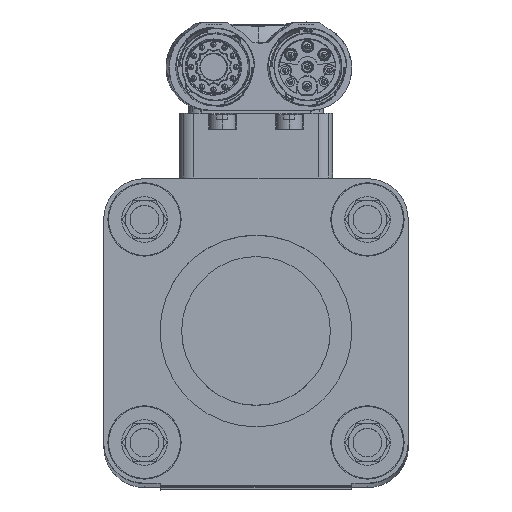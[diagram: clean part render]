
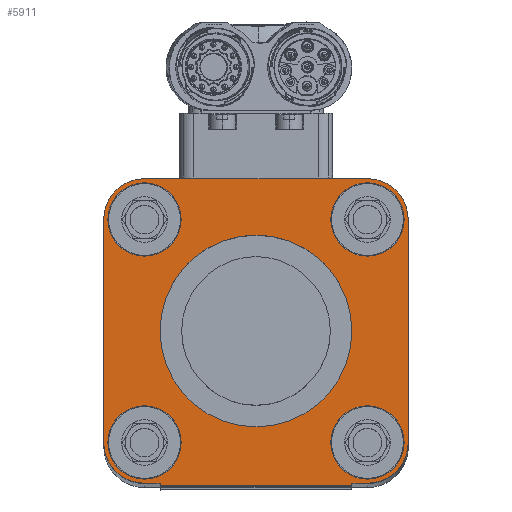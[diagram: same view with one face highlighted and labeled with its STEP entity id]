
A CAD part, left-side view. The second image highlights one B-rep face of the part: STEP entity #5911.
In plain terms, the highlighted planar face has unit normal (-1, 0, 0.002) as drawn and (0, 0, 1) by its records, which use the part's own axes.
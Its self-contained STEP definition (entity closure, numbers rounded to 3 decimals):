
#5911=ADVANCED_FACE('10:20',(#13326,#13327,#13328,#13329,#13330,#13331),#13332,.T.);
#13326=FACE_BOUND('',#21774,.T.);
#13327=FACE_BOUND('',#21775,.T.);
#13328=FACE_BOUND('',#21776,.T.);
#13329=FACE_BOUND('',#21777,.T.);
#13330=FACE_BOUND('',#21778,.T.);
#13331=FACE_OUTER_BOUND('',#21779,.T.);
#13332=PLANE('',#21780);
#21774=EDGE_LOOP('',(#54032,#54033));
#21775=EDGE_LOOP('',(#54034,#54035));
#21776=EDGE_LOOP('',(#54036,#54037));
#21777=EDGE_LOOP('',(#54038,#54039));
#21778=EDGE_LOOP('',(#54040,#54041));
#21779=EDGE_LOOP('',(#54042,#54043,#54044,#54045,#54046,#54047,#54048,#54049,#54050,#54051,#54052,#54053,#54054,#54055,#54056,#54057));
#21780=AXIS2_PLACEMENT_3D('',#54058,#54059,#54060);
#54032=ORIENTED_EDGE('',*,*,#72532,.F.);
#54033=ORIENTED_EDGE('',*,*,#72537,.F.);
#54034=ORIENTED_EDGE('',*,*,#72462,.F.);
#54035=ORIENTED_EDGE('',*,*,#72538,.F.);
#54036=ORIENTED_EDGE('',*,*,#72467,.F.);
#54037=ORIENTED_EDGE('',*,*,#72539,.F.);
#54038=ORIENTED_EDGE('',*,*,#72472,.F.);
#54039=ORIENTED_EDGE('',*,*,#72540,.F.);
#54040=ORIENTED_EDGE('',*,*,#72477,.F.);
#54041=ORIENTED_EDGE('',*,*,#72541,.F.);
#54042=ORIENTED_EDGE('',*,*,#72482,.F.);
#54043=ORIENTED_EDGE('',*,*,#72542,.F.);
#54044=ORIENTED_EDGE('',*,*,#72543,.F.);
#54045=ORIENTED_EDGE('',*,*,#72487,.F.);
#54046=ORIENTED_EDGE('',*,*,#72544,.F.);
#54047=ORIENTED_EDGE('',*,*,#72545,.F.);
#54048=ORIENTED_EDGE('',*,*,#72492,.F.);
#54049=ORIENTED_EDGE('',*,*,#72546,.F.);
#54050=ORIENTED_EDGE('',*,*,#72547,.F.);
#54051=ORIENTED_EDGE('',*,*,#72497,.F.);
#54052=ORIENTED_EDGE('',*,*,#72548,.F.);
#54053=ORIENTED_EDGE('',*,*,#72549,.F.);
#54054=ORIENTED_EDGE('',*,*,#72550,.F.);
#54055=ORIENTED_EDGE('',*,*,#72551,.F.);
#54056=ORIENTED_EDGE('',*,*,#72552,.F.);
#54057=ORIENTED_EDGE('',*,*,#72553,.F.);
#54058=CARTESIAN_POINT('',(0.0,0.0,34.0));
#54059=DIRECTION('',(0.0,0.0,1.0));
#54060=DIRECTION('',(1.0,0.0,0.0));
#72462=EDGE_CURVE('0:1577',#85614,#85610,#85616,.F.);
#72467=EDGE_CURVE('0:1603',#85623,#85619,#85625,.F.);
#72472=EDGE_CURVE('0:1551',#85632,#85628,#85634,.F.);
#72477=EDGE_CURVE('0:1525',#85641,#85637,#85643,.F.);
#72482=EDGE_CURVE('0:1801',#85650,#85646,#85652,.F.);
#72487=EDGE_CURVE('0:1695',#85659,#85655,#85661,.F.);
#72492=EDGE_CURVE('0:1637',#85668,#85664,#85670,.F.);
#72497=EDGE_CURVE('0:1747',#85677,#85673,#85679,.F.);
#72532=EDGE_CURVE('10:253',#85740,#85736,#85742,.T.);
#72537=EDGE_CURVE('',#85736,#85740,#85747,.T.);
#72538=EDGE_CURVE('',#85610,#85614,#85748,.F.);
#72539=EDGE_CURVE('',#85619,#85623,#85749,.F.);
#72540=EDGE_CURVE('',#85628,#85632,#85750,.F.);
#72541=EDGE_CURVE('',#85637,#85641,#85751,.F.);
#72542=EDGE_CURVE('0:863',#85752,#85650,#85753,.F.);
#72543=EDGE_CURVE('',#85655,#85752,#85754,.F.);
#72544=EDGE_CURVE('0:854',#85755,#85659,#85756,.F.);
#72545=EDGE_CURVE('',#85664,#85755,#85757,.F.);
#72546=EDGE_CURVE('0:845',#85758,#85668,#85759,.F.);
#72547=EDGE_CURVE('',#85673,#85758,#85760,.F.);
#72548=EDGE_CURVE('13:44',#85761,#85677,#85762,.F.);
#72549=EDGE_CURVE('13:385',#85763,#85761,#85764,.T.);
#72550=EDGE_CURVE('13:394',#85765,#85763,#85766,.T.);
#72551=EDGE_CURVE('13:400',#85767,#85765,#85768,.T.);
#72552=EDGE_CURVE('13:41',#85769,#85767,#85770,.F.);
#72553=EDGE_CURVE('',#85646,#85769,#85771,.F.);
#85610=VERTEX_POINT('',#108064);
#85614=VERTEX_POINT('',#108069);
#85616=CIRCLE('',#108072,7.65);
#85619=VERTEX_POINT('',#108075);
#85623=VERTEX_POINT('',#108080);
#85625=CIRCLE('',#108083,7.65);
#85628=VERTEX_POINT('',#108086);
#85632=VERTEX_POINT('',#108091);
#85634=CIRCLE('',#108094,7.65);
#85637=VERTEX_POINT('',#108097);
#85641=VERTEX_POINT('',#108102);
#85643=CIRCLE('',#108105,7.65);
#85646=VERTEX_POINT('',#108108);
#85650=VERTEX_POINT('',#108113);
#85652=CIRCLE('',#108116,8.5);
#85655=VERTEX_POINT('',#108119);
#85659=VERTEX_POINT('',#108124);
#85661=CIRCLE('',#108127,8.5);
#85664=VERTEX_POINT('',#108130);
#85668=VERTEX_POINT('',#108135);
#85670=CIRCLE('',#108138,8.5);
#85673=VERTEX_POINT('',#108141);
#85677=VERTEX_POINT('',#108146);
#85679=CIRCLE('',#108149,8.5);
#85736=VERTEX_POINT('',#108218);
#85740=VERTEX_POINT('',#108223);
#85742=CIRCLE('',#108226,20.0);
#85747=CIRCLE('',#108231,20.0);
#85748=CIRCLE('',#108232,7.65);
#85749=CIRCLE('',#108233,7.65);
#85750=CIRCLE('',#108234,7.65);
#85751=CIRCLE('',#108235,7.65);
#85752=VERTEX_POINT('',#108236);
#85753=LINE('',#108237,#108238);
#85754=CIRCLE('',#108239,8.5);
#85755=VERTEX_POINT('',#108240);
#85756=LINE('',#108241,#108242);
#85757=CIRCLE('',#108243,8.5);
#85758=VERTEX_POINT('',#108244);
#85759=LINE('',#108245,#108246);
#85760=CIRCLE('',#108247,8.5);
#85761=VERTEX_POINT('',#108248);
#85762=LINE('',#108249,#108250);
#85763=VERTEX_POINT('',#108251);
#85764=LINE('',#108252,#108253);
#85765=VERTEX_POINT('',#108254);
#85766=LINE('',#108255,#108256);
#85767=VERTEX_POINT('',#108257);
#85768=LINE('',#108258,#108259);
#85769=VERTEX_POINT('',#108260);
#85770=LINE('',#108261,#108262);
#85771=CIRCLE('',#108263,8.5);
#108064=CARTESIAN_POINT('',(46.709,-36.636,34.0));
#108069=CARTESIAN_POINT('',(31.409,-36.636,34.0));
#108072=AXIS2_PLACEMENT_3D('',#149160,#149161,#149162);
#108075=CARTESIAN_POINT('',(0.209,-36.636,34.0));
#108080=CARTESIAN_POINT('',(-15.091,-36.636,34.0));
#108083=AXIS2_PLACEMENT_3D('',#149168,#149169,#149170);
#108086=CARTESIAN_POINT('',(46.709,9.864,34.0));
#108091=CARTESIAN_POINT('',(31.409,9.864,34.0));
#108094=AXIS2_PLACEMENT_3D('',#149176,#149177,#149178);
#108097=CARTESIAN_POINT('',(0.209,9.864,34.0));
#108102=CARTESIAN_POINT('',(-15.091,9.864,34.0));
#108105=AXIS2_PLACEMENT_3D('',#149184,#149185,#149186);
#108108=CARTESIAN_POINT('',(45.069,-42.647,34.0));
#108113=CARTESIAN_POINT('',(47.559,-36.636,34.0));
#108116=AXIS2_PLACEMENT_3D('',#149192,#149193,#149194);
#108119=CARTESIAN_POINT('',(45.069,15.874,34.0));
#108124=CARTESIAN_POINT('',(39.059,18.364,34.0));
#108127=AXIS2_PLACEMENT_3D('',#149200,#149201,#149202);
#108130=CARTESIAN_POINT('',(-13.451,15.874,34.0));
#108135=CARTESIAN_POINT('',(-15.941,9.864,34.0));
#108138=AXIS2_PLACEMENT_3D('',#149208,#149209,#149210);
#108141=CARTESIAN_POINT('',(-13.451,-42.647,34.0));
#108146=CARTESIAN_POINT('',(-7.441,-45.136,34.0));
#108149=AXIS2_PLACEMENT_3D('',#149216,#149217,#149218);
#108218=CARTESIAN_POINT('',(35.809,-13.386,34.0));
#108223=CARTESIAN_POINT('',(-4.191,-13.386,34.0));
#108226=AXIS2_PLACEMENT_3D('',#149272,#149273,#149274);
#108231=AXIS2_PLACEMENT_3D('',#149281,#149282,#149283);
#108232=AXIS2_PLACEMENT_3D('',#149284,#149285,#149286);
#108233=AXIS2_PLACEMENT_3D('',#149287,#149288,#149289);
#108234=AXIS2_PLACEMENT_3D('',#149290,#149291,#149292);
#108235=AXIS2_PLACEMENT_3D('',#149293,#149294,#149295);
#108236=CARTESIAN_POINT('',(47.559,9.864,34.0));
#108237=CARTESIAN_POINT('',(47.559,-6.693,34.0));
#108238=VECTOR('',#149296,1.0);
#108239=AXIS2_PLACEMENT_3D('',#149297,#149298,#149299);
#108240=CARTESIAN_POINT('',(-7.441,18.364,34.0));
#108241=CARTESIAN_POINT('',(7.904,18.364,34.0));
#108242=VECTOR('',#149300,1.0);
#108243=AXIS2_PLACEMENT_3D('',#149301,#149302,#149303);
#108244=CARTESIAN_POINT('',(-15.941,-36.636,34.0));
#108245=CARTESIAN_POINT('',(-15.941,-6.693,34.0));
#108246=VECTOR('',#149304,1.0);
#108247=AXIS2_PLACEMENT_3D('',#149305,#149306,#149307);
#108248=CARTESIAN_POINT('',(-4.191,-45.136,34.0));
#108249=CARTESIAN_POINT('',(7.904,-45.136,34.0));
#108250=VECTOR('',#149308,1.0);
#108251=CARTESIAN_POINT('',(-4.191,-45.636,34.0));
#108252=CARTESIAN_POINT('',(-4.191,-45.636,34.0));
#108253=VECTOR('',#149309,1.0);
#108254=CARTESIAN_POINT('',(35.809,-45.636,34.0));
#108255=CARTESIAN_POINT('',(35.809,-45.636,34.0));
#108256=VECTOR('',#149310,1.0);
#108257=CARTESIAN_POINT('',(35.809,-45.136,34.0));
#108258=CARTESIAN_POINT('',(35.809,-45.136,34.0));
#108259=VECTOR('',#149311,1.0);
#108260=CARTESIAN_POINT('',(39.059,-45.136,34.0));
#108261=CARTESIAN_POINT('',(7.904,-45.136,34.0));
#108262=VECTOR('',#149312,1.0);
#108263=AXIS2_PLACEMENT_3D('',#149313,#149314,#149315);
#149160=CARTESIAN_POINT('',(39.059,-36.636,34.0));
#149161=DIRECTION('',(0.0,0.0,-1.0));
#149162=DIRECTION('',(1.0,0.0,0.0));
#149168=CARTESIAN_POINT('',(-7.441,-36.636,34.0));
#149169=DIRECTION('',(0.0,0.0,-1.0));
#149170=DIRECTION('',(1.0,0.0,0.0));
#149176=CARTESIAN_POINT('',(39.059,9.864,34.0));
#149177=DIRECTION('',(0.0,0.0,-1.0));
#149178=DIRECTION('',(1.0,0.0,0.0));
#149184=CARTESIAN_POINT('',(-7.441,9.864,34.0));
#149185=DIRECTION('',(0.0,0.0,-1.0));
#149186=DIRECTION('',(1.0,0.0,0.0));
#149192=CARTESIAN_POINT('',(39.059,-36.636,34.0));
#149193=DIRECTION('',(0.0,0.0,1.0));
#149194=DIRECTION('',(0.707,-0.707,0.0));
#149200=CARTESIAN_POINT('',(39.059,9.864,34.0));
#149201=DIRECTION('',(0.0,-0.0,1.0));
#149202=DIRECTION('',(0.707,0.707,0.0));
#149208=CARTESIAN_POINT('',(-7.441,9.864,34.0));
#149209=DIRECTION('',(0.0,0.0,1.0));
#149210=DIRECTION('',(-0.707,0.707,0.0));
#149216=CARTESIAN_POINT('',(-7.441,-36.636,34.0));
#149217=DIRECTION('',(0.0,0.0,1.0));
#149218=DIRECTION('',(-0.707,-0.707,0.0));
#149272=CARTESIAN_POINT('',(15.809,-13.386,34.0));
#149273=DIRECTION('',(0.0,0.0,1.0));
#149274=DIRECTION('',(1.0,0.0,-0.0));
#149281=CARTESIAN_POINT('',(15.809,-13.386,34.0));
#149282=DIRECTION('',(0.0,0.0,1.0));
#149283=DIRECTION('',(1.0,0.0,-0.0));
#149284=CARTESIAN_POINT('',(39.059,-36.636,34.0));
#149285=DIRECTION('',(0.0,0.0,-1.0));
#149286=DIRECTION('',(1.0,0.0,0.0));
#149287=CARTESIAN_POINT('',(-7.441,-36.636,34.0));
#149288=DIRECTION('',(0.0,0.0,-1.0));
#149289=DIRECTION('',(1.0,0.0,0.0));
#149290=CARTESIAN_POINT('',(39.059,9.864,34.0));
#149291=DIRECTION('',(0.0,0.0,-1.0));
#149292=DIRECTION('',(1.0,0.0,0.0));
#149293=CARTESIAN_POINT('',(-7.441,9.864,34.0));
#149294=DIRECTION('',(0.0,0.0,-1.0));
#149295=DIRECTION('',(1.0,0.0,0.0));
#149296=DIRECTION('',(-0.0,1.0,0.0));
#149297=CARTESIAN_POINT('',(39.059,9.864,34.0));
#149298=DIRECTION('',(0.0,-0.0,1.0));
#149299=DIRECTION('',(0.707,0.707,0.0));
#149300=DIRECTION('',(-1.0,0.0,0.0));
#149301=CARTESIAN_POINT('',(-7.441,9.864,34.0));
#149302=DIRECTION('',(0.0,0.0,1.0));
#149303=DIRECTION('',(-0.707,0.707,0.0));
#149304=DIRECTION('',(0.0,-1.0,0.0));
#149305=CARTESIAN_POINT('',(-7.441,-36.636,34.0));
#149306=DIRECTION('',(0.0,0.0,1.0));
#149307=DIRECTION('',(-0.707,-0.707,0.0));
#149308=DIRECTION('',(1.0,0.0,-0.0));
#149309=DIRECTION('',(0.0,1.0,0.0));
#149310=DIRECTION('',(-1.0,0.0,0.0));
#149311=DIRECTION('',(0.0,-1.0,0.0));
#149312=DIRECTION('',(1.0,0.0,-0.0));
#149313=CARTESIAN_POINT('',(39.059,-36.636,34.0));
#149314=DIRECTION('',(0.0,0.0,1.0));
#149315=DIRECTION('',(0.707,-0.707,0.0));
